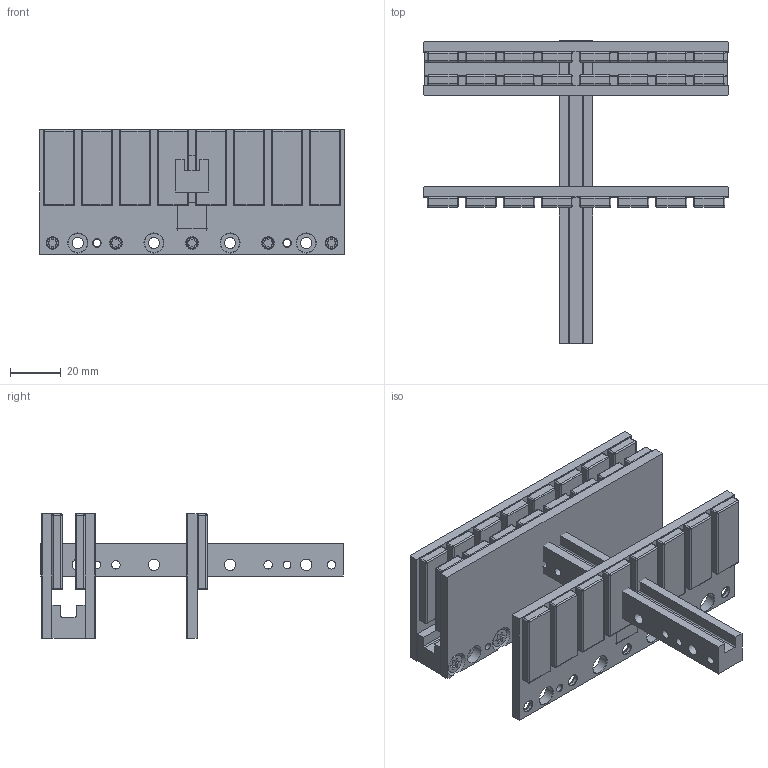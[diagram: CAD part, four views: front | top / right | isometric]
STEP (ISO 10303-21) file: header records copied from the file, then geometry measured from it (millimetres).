
FILE_DESCRIPTION( ( 'STEP AP203' ), '1' );
FILE_NAME( 'ML1600_02-M(120).stp', '2006-09-29T12:35:36', ( ' ' ), ( ' ' ), 'XStep 1.0', ' ', ' ' );
FILE_SCHEMA( ( 'CONFIG_CONTROL_DESIGN) ( )' ) );
Length unit declared in the file: metre
Products named in the file (22): Assem1; Assem2; 1; 2; 3; 4; 5; 6; 7; 8; 9; 10; 11; 12; 13; 14; 15; 16; 17; 18; 19; 20
Bounding box: 119.9 x 119.2 x 49 mm (x, y, z)
Volume: 168777.1 mm3; surface area: 108171.7 mm2
Topology: 58 solids, 58 shells, 1626 faces, 3962 edges, 2196 vertices
Faces by surface type: cylinder 734, plane 552, sphere 256, cone 84
Full cylindrical faces by diameter (mm): 3 x12, 3.3 x10, 4 x20, 4.5 x28, 7.4 x20, 7.5 x16
Entity records: 16959 total; most frequent: DIRECTION 2981, CARTESIAN_POINT 2723, ORIENTED_EDGE 2536, EDGE_CURVE 1268, AXIS2_PLACEMENT_3D 1129, VERTEX_POINT 813, LINE 723, VECTOR 723
